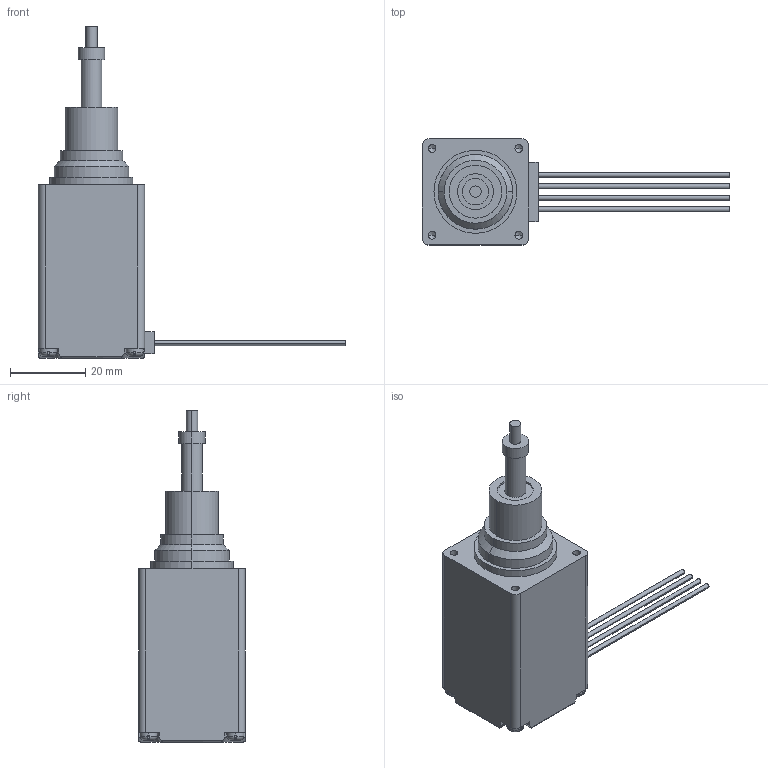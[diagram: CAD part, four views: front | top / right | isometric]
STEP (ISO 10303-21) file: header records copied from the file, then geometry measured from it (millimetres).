
FILE_DESCRIPTION (( 'STEP AP214' ), '1' );
FILE_NAME ('AMETEK-28M47-2.1-0.5-12.STEP', '2022-02-28T12:02:28', ( '' ), ( '' ), 'SwSTEP 2.0', 'SolidWorks 2021', '' );
FILE_SCHEMA (( 'AUTOMOTIVE_DESIGN' ));
Length unit declared in the file: inch
Products named in the file (1): AMETEK-28M47-2.1-0.5-12
Bounding box: 81.53 x 28.19 x 88.06 mm (x, y, z)
Volume: 40239.1 mm3; surface area: 10190.8 mm2
Topology: 2 solids, 2 shells, 190 faces, 482 edges, 311 vertices
Faces by surface type: plane 103, cylinder 60, cone 14, torus 13
Entity records: 6956 total; most frequent: CARTESIAN_POINT 1297, DIRECTION 970, ORIENTED_EDGE 948, EDGE_CURVE 474, AXIS2_PLACEMENT_3D 350, VERTEX_POINT 311, VECTOR 270, LINE 270
